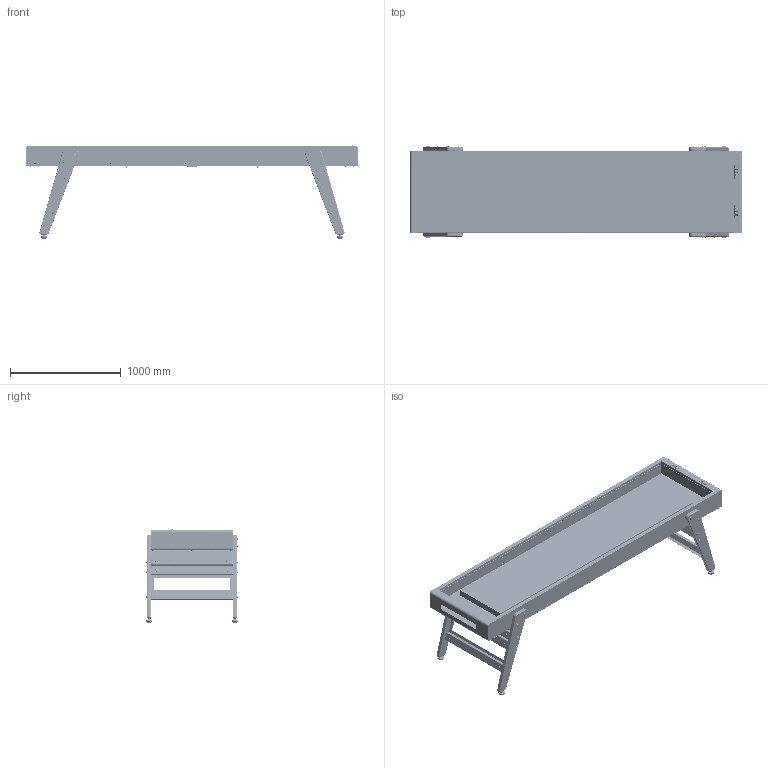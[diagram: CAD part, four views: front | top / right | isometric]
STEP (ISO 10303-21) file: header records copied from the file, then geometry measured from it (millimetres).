
FILE_DESCRIPTION (( 'STEP AP214' ), '1' );
FILE_NAME ('TRACK-9.STEP', '2023-11-17T11:38:49', ( '' ), ( '' ), 'SwSTEP 2.0', 'SolidWorks 2020', '' );
FILE_SCHEMA (( 'AUTOMOTIVE_DESIGN' ));
Length unit declared in the file: millimetre
Products named in the file (64): conjunto_tornillo_arandela_sujeccion_patas.igs; M8x50_din7380.igs; chapa_soporte_redondo.igs; FALDON MADERA_SHU.igs; refuerzo_estructura_lateral_3_new_9ft.igs; CONJUNTO CHAPA NIVELADOR PATA MADERA.igs; tope_embellecedor.igs; conjunto_M8_arandela_tuerca_2.igs; conjunto_estructura_lateral_SHU_9_B.igs; chapa_union_SHU.igs; frontal_estructura_SHU_9_2.igs; conjunto_patas_madera_wood_SHU.igs; pet_3_SH9.igs; tubo_1_lateral_SHU_9.igs; tornillo_M8_soporte_cristal_rs#3.igs; conjunto_frontal_estructura_SHU_9_2.igs; chapa_costilla_SHF.igs; Symmetry of conjunto_estructura_lateral_SHU_9_C.igs; conjunto_refuerzo_estructura_lateral_9ft.igs; tubo_2_lateral_SHU_9.igs; pet_2.igs; frontal_4_estructura_SHU_9.igs; utillaje_conjunto_soporte_redondo_chapa_SH9.igs; frontal_3_estructura_SHU_9.igs; NIVELADOR PETIT.igs; TRACK-9.igs; modulo_estructura_1_lateral_SHU_9.igs; refuerzo_estructura_lateral_1_9ft.igs; tuerca_M8_hex.igs; M8x60_din7380.igs; conjunto_lateral_A_SHU9.igs; ISO 4762 SCREW M6x30 STEEL HEXAGON SOCKET HEAD CAP.igs; estructura_2_lateral_SHU_9.igs; conjunto_soporte_redondo_chapa.igs; ISO 7093-2 WASHER 8x24.0 STEEL GRADE C PLAIN LARGE SERIES.igs; conjunto_cuentagol_rs#4_new.igs; chapa_inf_goma_base_SHU_9.igs; chapa_superficie_SHU_9_plana.igs; tubo_3_lateral_SHU_9.igs; frontal_2_estructura_SHU_9.igs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
Assembly tree (188 placements, depth 7):
  TRACK-9
    TRACK-9.igs
      chapa_inf_goma_base_SHU_9.igs  x2
      chapa_union_SHU.igs
      tornillo_M8_soporte_cristal_rs#3.igs  x6
      chapa_costilla_SHF_central.igs
      conjunto_patas_madera_wood_SHU.igs  x2
        NIVELADOR PETIT.igs
        PATA MADERA_SHU.igs
        chapa_patas_grande.igs
        FALDON MADERA_SHU.igs
        CONJUNTO CHAPA NIVELADOR PATA MADERA.igs
        conjunto_M8_arandela_tuerca_2.igs
          M8x50_din7380.igs
          ISO 7093-2 WASHER 8x24.0 STEEL GRADE C PLAIN LARGE SERIES.igs  x2
          ISO 4034 NUT M8 STEEL GRADE C HEXAGON HEAD.igs
      conjunto_lateral_A_SHU9.igs
        tuerca_M8_hex.igs  x7
        tuerca_m5_hex.igs  x9
        tornillo_eiffel_metalico.igs  x9
        conjunto_estructura_lateral_SHU_9_B.igs
          conjunto_frontal_estructura_SHU_9_2.igs
            frontal_estructura_SHU_9_2.igs
            frontal_3_estructura_SHU_9.igs
            frontal_2_estructura_SHU_9.igs
            frontal_4_estructura_SHU_9.igs  x2
        conjunto_laterales_y_tubos_RHU_9.igs
          tuerca_M8_hex.igs  x11
          tuerca_m5_hex.igs  x9
          tubo_2_lateral_SHU_9.igs
          tubo_1_lateral_SHU_9.igs  x2
          tubo_3_lateral_SHU_9.igs
          Symmetry of conjunto_estructura_lateral_SHU_9_C.igs
            tuerca_M8_hex.igs  x5
            tuerca_m5_hex.igs  x2
            Symmetry of modulo_estructura_1_lateral_SHU_9.igs
              Symmetry of estructura_1_lateral_SHU_9.igs
          conjunto_estructura_lateral_SHU_9_C.igs
            tuerca_M8_hex.igs  x5
            tuerca_m5_hex.igs  x2
            modulo_estructura_1_lateral_SHU_9.igs
              estructura_1_lateral_SHU_9.igs
              estructura_2_lateral_SHU_9.igs
      conjunto_lateral_B_SHU9.igs
        tornillo_eiffel_metalico.igs  x9
        conjunto_frontal_estructura_SHU_9.igs
          frontal_3_estructura_SHU_9.igs
          frontal_2_estructura_SHU_9.igs
          frontal_estructura_SHU_9.igs
          conjunto_soporte_chapa_contagol.igs  x2
            conjunto_cuentagol_rs#4_new.igs
            soporte_chapa_contagol.igs
        conjunto_laterales_y_tubos_RHU_9.igs
          tuerca_M8_hex.igs  x11
          tuerca_m5_hex.igs  x9
          tubo_2_lateral_SHU_9.igs
          tubo_1_lateral_SHU_9.igs  x2
          tubo_3_lateral_SHU_9.igs
          Symmetry of conjunto_estructura_lateral_SHU_9_C.igs
            tuerca_M8_hex.igs  x5
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Bounding box: 2991.4 x 833.4 x 838.14 mm (x, y, z)
Volume: 62689885.7 mm3; surface area: 26985366.5 mm2
Topology: 325 solids, 355 shells, 7983 faces, 19838 edges, 12634 vertices
Faces by surface type: plane 4395, bspline 3588
Entity records: 97884 total; most frequent: CARTESIAN_POINT 51155, ORIENTED_EDGE 12928, EDGE_CURVE 6515, B_SPLINE_CURVE_WITH_KNOTS 5272, VERTEX_POINT 4097, DIRECTION 3412, EDGE_LOOP 2930, ADVANCED_FACE 2478
